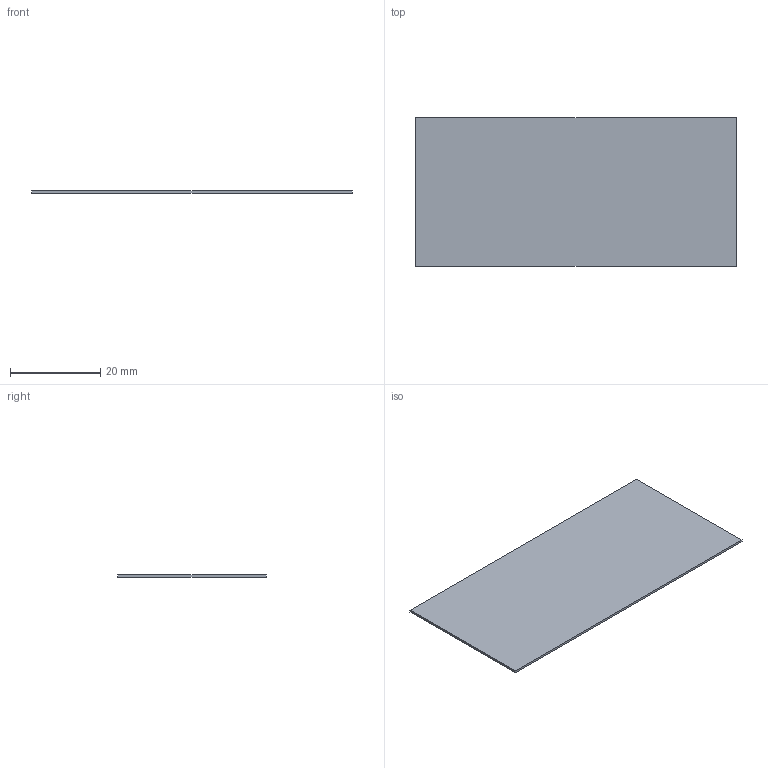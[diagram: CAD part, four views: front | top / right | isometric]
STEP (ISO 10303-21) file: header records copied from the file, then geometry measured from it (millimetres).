
FILE_DESCRIPTION (( 'STEP AP214' ), '1' );
FILE_NAME ('Caratula.STEP', '2016-10-05T13:42:18', ( 'aaa' ), ( '' ), 'SwSTEP 2.0', 'SolidWorks 2013', '' );
FILE_SCHEMA (( 'AUTOMOTIVE_DESIGN' ));
Length unit declared in the file: millimetre
Products named in the file (1): Caratula
Bounding box: 70.9 x 32.9 x 0.5 mm (x, y, z)
Volume: 1166.3 mm3; surface area: 4769 mm2
Topology: 1 solids, 1 shells, 6 faces, 12 edges, 8 vertices
Faces by surface type: plane 6
Entity records: 190 total; most frequent: CARTESIAN_POINT 27, DIRECTION 26, ORIENTED_EDGE 24, VECTOR 12, LINE 12, EDGE_CURVE 12, VERTEX_POINT 8, AXIS2_PLACEMENT_3D 7
